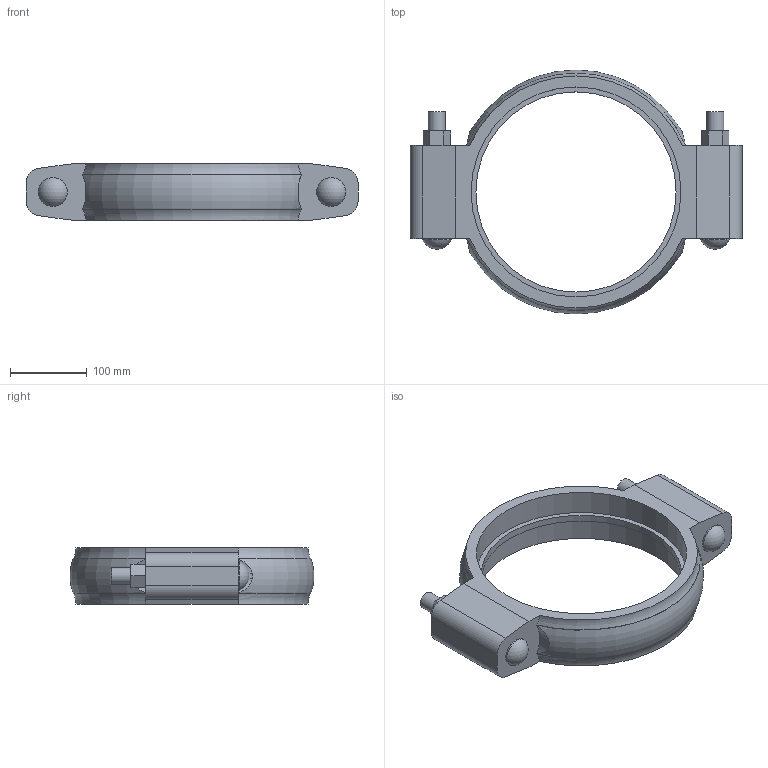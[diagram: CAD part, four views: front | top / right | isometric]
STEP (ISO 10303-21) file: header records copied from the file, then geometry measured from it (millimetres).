
FILE_DESCRIPTION(/* description */ ('VIC STRENGTHIN COUPLING STYLE E497 (RIGID)','CAx-IF Rec.Pracs.---Representation and Presentation of Product Manufacturing Information (PMI)---4.0---2014-10-13'),/* implementation_level */ '2;1');
FILE_NAME(/* name */ 'C:\Users\Vjadhav\AppData\Roaming\Autodesk\ApplicationPlugins\Back Up\Victaulic_SS-StrengThin 100_Coupling Rigid_Style E497 (ST1)\Victaulic_SS-StrengThin 100_Coupling Rigid_Style E497 (ST1)_10 (250).stp',/* time_stamp */ '2020-07-07T19:35:51+05:00',/* author */ ('jheald'),/* organization */ ('Victaulic'),/* preprocessor_version */ 'ST-DEVELOPER v17.2',/* originating_system */ 'Autodesk Inventor 2019',/* authorisation */ '');
FILE_SCHEMA (('AP242_MANAGED_MODEL_BASED_3D_ENGINEERING_MIM_LF { 1 0 10303 442 1 1 4 }'));
Length unit declared in the file: inch
Products named in the file (1): E497-10.0
Bounding box: 431.8 x 317.3 x 73.15 mm (x, y, z)
Volume: 2322370.8 mm3; surface area: 266592.6 mm2
Topology: 1 solids, 3 shells, 79 faces, 211 edges, 142 vertices
Faces by surface type: plane 42, cylinder 25, torus 10, sphere 2
Full cylindrical faces by diameter (mm): 22.225 x4, 37.694 x2, 260.35 x1, 273.05 x2
Entity records: 2860 total; most frequent: CARTESIAN_POINT 654, DIRECTION 427, ORIENTED_EDGE 422, EDGE_CURVE 211, AXIS2_PLACEMENT_3D 159, VERTEX_POINT 142, LINE 109, VECTOR 109
